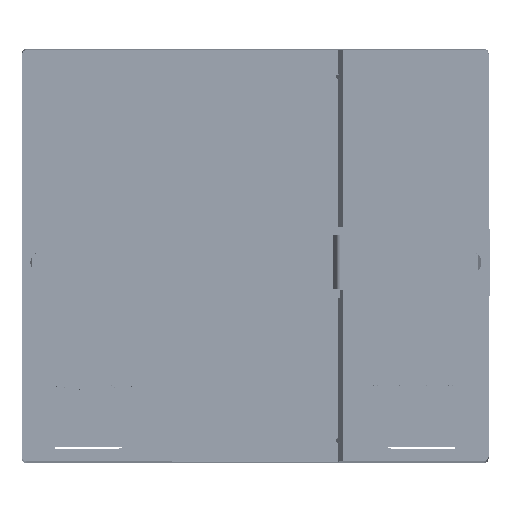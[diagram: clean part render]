
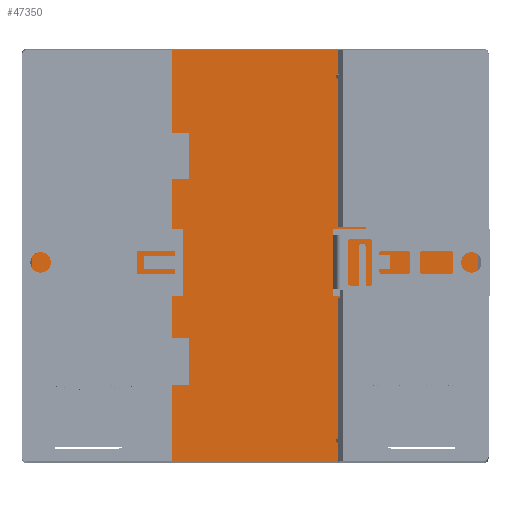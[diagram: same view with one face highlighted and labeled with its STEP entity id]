
A CAD part, top view. The second image highlights one B-rep face of the part: STEP entity #47350.
In plain terms, the highlighted planar face has unit normal (0, 0, 1).
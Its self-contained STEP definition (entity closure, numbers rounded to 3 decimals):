
#28663=CIRCLE('',#394624,0.5);
#28664=CIRCLE('',#394625,0.5);
#47350=ADVANCED_FACE('',(#79032),#59160,.F.);
#59160=PLANE('',#394626);
#79032=FACE_OUTER_BOUND('',#100275,.T.);
#100275=EDGE_LOOP('',(#195130,#195131,#195132,#195133,#195134,#195135,#195136,
#195137,#195138,#195139,#195140,#195141,#195142,#195143,#195144,#195145));
#195130=ORIENTED_EDGE('',*,*,#285877,.T.);
#195131=ORIENTED_EDGE('',*,*,#285867,.F.);
#195132=ORIENTED_EDGE('',*,*,#285865,.F.);
#195133=ORIENTED_EDGE('',*,*,#285879,.T.);
#195134=ORIENTED_EDGE('',*,*,#285861,.F.);
#195135=ORIENTED_EDGE('',*,*,#285859,.F.);
#195136=ORIENTED_EDGE('',*,*,#285880,.T.);
#195137=ORIENTED_EDGE('',*,*,#285881,.F.);
#195138=ORIENTED_EDGE('',*,*,#285882,.T.);
#195139=ORIENTED_EDGE('',*,*,#285883,.T.);
#195140=ORIENTED_EDGE('',*,*,#285884,.T.);
#195141=ORIENTED_EDGE('',*,*,#285711,.T.);
#195142=ORIENTED_EDGE('',*,*,#285731,.T.);
#195143=ORIENTED_EDGE('',*,*,#285885,.T.);
#195144=ORIENTED_EDGE('',*,*,#285727,.T.);
#195145=ORIENTED_EDGE('',*,*,#285886,.T.);
#235605=VERTEX_POINT('',#610220);
#235606=VERTEX_POINT('',#610221);
#235618=VERTEX_POINT('',#610249);
#235619=VERTEX_POINT('',#610251);
#235622=VERTEX_POINT('',#610257);
#235696=VERTEX_POINT('',#610505);
#235697=VERTEX_POINT('',#610507);
#235698=VERTEX_POINT('',#610511);
#235701=VERTEX_POINT('',#610517);
#235702=VERTEX_POINT('',#610519);
#235703=VERTEX_POINT('',#610523);
#235708=VERTEX_POINT('',#610543);
#235709=VERTEX_POINT('',#610548);
#235710=VERTEX_POINT('',#610550);
#235711=VERTEX_POINT('',#610552);
#235712=VERTEX_POINT('',#610554);
#285711=EDGE_CURVE('',#235605,#235606,#322110,.T.);
#285727=EDGE_CURVE('',#235619,#235618,#322126,.T.);
#285731=EDGE_CURVE('',#235606,#235622,#322128,.T.);
#285859=EDGE_CURVE('',#235696,#235697,#322238,.T.);
#285861=EDGE_CURVE('',#235697,#235698,#322240,.T.);
#285865=EDGE_CURVE('',#235701,#235702,#322242,.T.);
#285867=EDGE_CURVE('',#235702,#235703,#322244,.T.);
#285877=EDGE_CURVE('',#235708,#235703,#322254,.T.);
#285879=EDGE_CURVE('',#235701,#235698,#28663,.T.);
#285880=EDGE_CURVE('',#235696,#235709,#322256,.T.);
#285881=EDGE_CURVE('',#235710,#235709,#322257,.T.);
#285882=EDGE_CURVE('',#235710,#235711,#322258,.T.);
#285883=EDGE_CURVE('',#235711,#235712,#322259,.T.);
#285884=EDGE_CURVE('',#235712,#235605,#322260,.T.);
#285885=EDGE_CURVE('',#235622,#235619,#28664,.T.);
#285886=EDGE_CURVE('',#235618,#235708,#322261,.T.);
#322110=LINE('',#610219,#359563);
#322126=LINE('',#610250,#359579);
#322128=LINE('',#610258,#359581);
#322238=LINE('',#610506,#359691);
#322240=LINE('',#610510,#359693);
#322242=LINE('',#610518,#359695);
#322244=LINE('',#610522,#359697);
#322254=LINE('',#610542,#359707);
#322256=LINE('',#610547,#359709);
#322257=LINE('',#610549,#359710);
#322258=LINE('',#610551,#359711);
#322259=LINE('',#610553,#359712);
#322260=LINE('',#610555,#359713);
#322261=LINE('',#610557,#359714);
#359563=VECTOR('',#487485,1.);
#359579=VECTOR('',#487503,1.);
#359581=VECTOR('',#487509,1.);
#359691=VECTOR('',#487747,1.);
#359693=VECTOR('',#487751,1.);
#359695=VECTOR('',#487757,1.);
#359697=VECTOR('',#487761,1.);
#359707=VECTOR('',#487781,1.);
#359709=VECTOR('',#487787,1.);
#359710=VECTOR('',#487788,1.);
#359711=VECTOR('',#487789,1.);
#359712=VECTOR('',#487790,1.);
#359713=VECTOR('',#487791,1.);
#359714=VECTOR('',#487794,1.);
#394624=AXIS2_PLACEMENT_3D('',#610546,#487785,#487786);
#394625=AXIS2_PLACEMENT_3D('',#610556,#487792,#487793);
#394626=AXIS2_PLACEMENT_3D('',#610558,#487795,#487796);
#487485=DIRECTION('',(1.,0.,0.));
#487503=DIRECTION('',(0.,1.,0.));
#487509=DIRECTION('',(0.,1.,0.));
#487747=DIRECTION('',(1.,0.,0.));
#487751=DIRECTION('',(0.,-1.,0.));
#487757=DIRECTION('',(0.,-1.,0.));
#487761=DIRECTION('',(1.,0.,0.));
#487781=DIRECTION('',(0.,1.,0.));
#487785=DIRECTION('',(0.,0.,-1.));
#487786=DIRECTION('',(0.,-1.,0.));
#487787=DIRECTION('',(0.,-1.,0.));
#487788=DIRECTION('',(1.,0.,0.));
#487789=DIRECTION('',(0.,-1.,0.));
#487790=DIRECTION('',(1.,0.,0.));
#487791=DIRECTION('',(0.,-1.,0.));
#487792=DIRECTION('',(0.,0.,-1.));
#487793=DIRECTION('',(0.,-1.,0.));
#487794=DIRECTION('',(1.,0.,0.));
#487795=DIRECTION('',(0.,0.,-1.));
#487796=DIRECTION('',(1.,0.,0.));
#610219=CARTESIAN_POINT('',(-17.8,-43.48,-5.));
#610220=CARTESIAN_POINT('',(-17.8,-43.48,-5.));
#610221=CARTESIAN_POINT('',(17.8,-43.48,-5.));
#610249=CARTESIAN_POINT('',(17.8,-8.35,-5.));
#610250=CARTESIAN_POINT('',(17.8,-38.5,-5.));
#610251=CARTESIAN_POINT('',(17.8,-38.5,-5.));
#610257=CARTESIAN_POINT('',(17.8,-39.5,-5.));
#610258=CARTESIAN_POINT('',(17.8,-43.48,-5.));
#610505=CARTESIAN_POINT('',(-17.8,44.775,-5.));
#610506=CARTESIAN_POINT('',(-17.8,44.775,-5.));
#610507=CARTESIAN_POINT('',(17.8,44.775,-5.));
#610510=CARTESIAN_POINT('',(17.8,44.775,-5.));
#610511=CARTESIAN_POINT('',(17.8,39.5,-5.));
#610517=CARTESIAN_POINT('',(17.8,38.5,-5.));
#610518=CARTESIAN_POINT('',(17.8,38.5,-5.));
#610519=CARTESIAN_POINT('',(17.8,6.75,-5.));
#610522=CARTESIAN_POINT('',(17.8,6.75,-5.));
#610523=CARTESIAN_POINT('',(47.8,6.75,-5.));
#610542=CARTESIAN_POINT('',(47.8,42.4,-5.));
#610543=CARTESIAN_POINT('',(47.8,-8.35,-5.));
#610546=CARTESIAN_POINT('',(17.8,39.,-5.));
#610547=CARTESIAN_POINT('',(-17.8,44.775,-5.));
#610548=CARTESIAN_POINT('',(-17.8,6.75,-5.));
#610549=CARTESIAN_POINT('',(-47.8,6.75,-5.));
#610550=CARTESIAN_POINT('',(-47.8,6.75,-5.));
#610551=CARTESIAN_POINT('',(-47.8,6.75,-5.));
#610552=CARTESIAN_POINT('',(-47.8,-8.35,-5.));
#610553=CARTESIAN_POINT('',(-47.8,-8.35,-5.));
#610554=CARTESIAN_POINT('',(-17.8,-8.35,-5.));
#610555=CARTESIAN_POINT('',(-17.8,-28.,-5.));
#610556=CARTESIAN_POINT('',(17.8,-39.,-5.));
#610557=CARTESIAN_POINT('',(17.8,-8.35,-5.));
#610558=CARTESIAN_POINT('',(0.,42.4,-5.));
